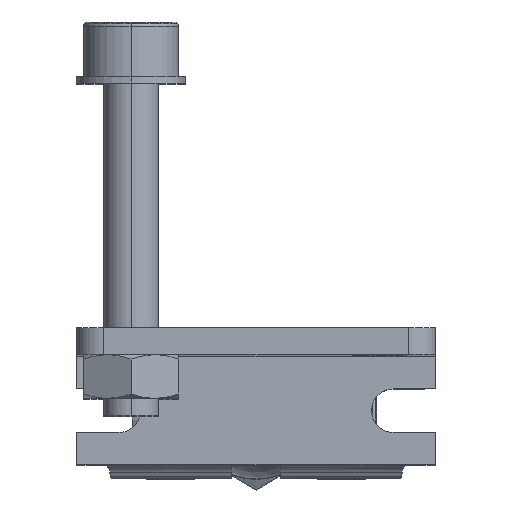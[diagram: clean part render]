
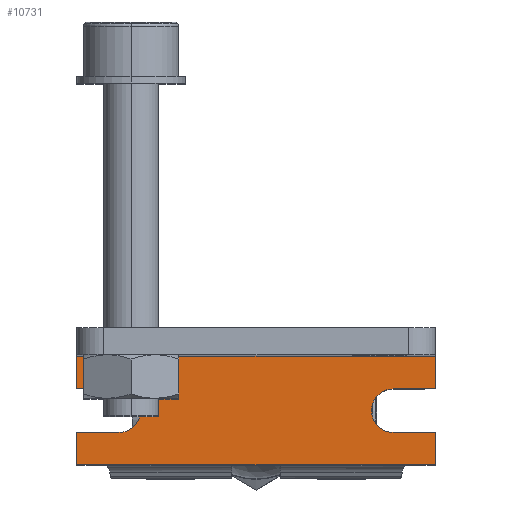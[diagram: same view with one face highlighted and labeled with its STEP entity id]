
A CAD part, top view. The second image highlights one B-rep face of the part: STEP entity #10731.
In plain terms, the highlighted planar face has unit normal (0, 0, 1) as drawn and (1, 0, 0) by its records, which use the part's own axes.
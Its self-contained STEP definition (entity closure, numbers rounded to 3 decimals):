
#4245=DIRECTION('',(0.,0.,-1.));
#4246=VECTOR('',#4245,26.4);
#4247=CARTESIAN_POINT('',(31.,4.,13.2));
#4248=LINE('',#4247,#4246);
#5699=DIRECTION('',(0.,0.,-1.));
#5700=VECTOR('',#5699,26.4);
#5701=CARTESIAN_POINT('',(31.,-4.,13.2));
#5702=LINE('',#5701,#5700);
#5706=DIRECTION('',(0.,-1.,0.));
#5707=VECTOR('',#5706,2.4);
#5708=CARTESIAN_POINT('',(31.,-1.6,13.2));
#5709=LINE('',#5708,#5707);
#5713=DIRECTION('',(0.,0.,1.));
#5714=VECTOR('',#5713,3.1);
#5715=CARTESIAN_POINT('',(31.,-1.6,10.1));
#5716=LINE('',#5715,#5714);
#5720=CARTESIAN_POINT('',(31.,0.,10.1));
#5721=DIRECTION('',(-1.,0.,0.));
#5722=DIRECTION('',(0.,1.,0.));
#5723=AXIS2_PLACEMENT_3D('',#5720,#5721,#5722);
#5728=DIRECTION('',(0.,0.,-1.));
#5729=VECTOR('',#5728,3.1);
#5730=CARTESIAN_POINT('',(31.,1.6,13.2));
#5731=LINE('',#5730,#5729);
#5735=DIRECTION('',(0.,-1.,0.));
#5736=VECTOR('',#5735,2.4);
#5737=CARTESIAN_POINT('',(31.,4.,13.2));
#5738=LINE('',#5737,#5736);
#5742=DIRECTION('',(0.,1.,0.));
#5743=VECTOR('',#5742,2.4);
#5744=CARTESIAN_POINT('',(31.,1.6,-13.2));
#5745=LINE('',#5744,#5743);
#5749=DIRECTION('',(0.,0.,-1.));
#5750=VECTOR('',#5749,3.1);
#5751=CARTESIAN_POINT('',(31.,1.6,-10.1));
#5752=LINE('',#5751,#5750);
#5756=CARTESIAN_POINT('',(31.,0.,-10.1));
#5757=DIRECTION('',(-1.,0.,0.));
#5758=DIRECTION('',(0.,-1.,0.));
#5759=AXIS2_PLACEMENT_3D('',#5756,#5757,#5758);
#5764=DIRECTION('',(0.,0.,1.));
#5765=VECTOR('',#5764,3.1);
#5766=CARTESIAN_POINT('',(31.,-1.6,-13.2));
#5767=LINE('',#5766,#5765);
#5771=DIRECTION('',(0.,1.,0.));
#5772=VECTOR('',#5771,2.4);
#5773=CARTESIAN_POINT('',(31.,-4.,-13.2));
#5774=LINE('',#5773,#5772);
#7340=CARTESIAN_POINT('',(31.,-4.,13.2));
#7341=CARTESIAN_POINT('',(31.,-4.,-13.2));
#7342=VERTEX_POINT('',#7340);
#7343=VERTEX_POINT('',#7341);
#7344=CARTESIAN_POINT('',(31.,-1.6,-13.2));
#7345=VERTEX_POINT('',#7344);
#7346=CARTESIAN_POINT('',(31.,-1.6,-10.1));
#7347=VERTEX_POINT('',#7346);
#7348=CARTESIAN_POINT('',(31.,1.6,-10.1));
#7349=VERTEX_POINT('',#7348);
#7350=CARTESIAN_POINT('',(31.,1.6,-13.2));
#7351=VERTEX_POINT('',#7350);
#7352=CARTESIAN_POINT('',(31.,4.,-13.2));
#7353=VERTEX_POINT('',#7352);
#7354=CARTESIAN_POINT('',(31.,4.,13.2));
#7355=VERTEX_POINT('',#7354);
#7356=CARTESIAN_POINT('',(31.,1.6,13.2));
#7357=VERTEX_POINT('',#7356);
#7358=CARTESIAN_POINT('',(31.,1.6,10.1));
#7359=VERTEX_POINT('',#7358);
#7360=CARTESIAN_POINT('',(31.,-1.6,10.1));
#7361=VERTEX_POINT('',#7360);
#7362=CARTESIAN_POINT('',(31.,-1.6,13.2));
#7363=VERTEX_POINT('',#7362);
#10708=CARTESIAN_POINT('',(31.,-5.,7.));
#10709=DIRECTION('',(-1.,0.,0.));
#10710=DIRECTION('',(0.,-1.,0.));
#10711=AXIS2_PLACEMENT_3D('',#10708,#10709,#10710);
#10712=PLANE('',#10711);
#10713=ORIENTED_EDGE('',*,*,#8241,.F.);
#10714=ORIENTED_EDGE('',*,*,#8228,.F.);
#10716=ORIENTED_EDGE('',*,*,#10715,.F.);
#10718=ORIENTED_EDGE('',*,*,#10717,.F.);
#10720=ORIENTED_EDGE('',*,*,#10719,.F.);
#10722=ORIENTED_EDGE('',*,*,#10721,.F.);
#10723=ORIENTED_EDGE('',*,*,#9361,.T.);
#10724=ORIENTED_EDGE('',*,*,#10645,.F.);
#10725=ORIENTED_EDGE('',*,*,#10658,.F.);
#10726=ORIENTED_EDGE('',*,*,#10671,.F.);
#10727=ORIENTED_EDGE('',*,*,#10685,.F.);
#10728=ORIENTED_EDGE('',*,*,#10697,.F.);
#10729=EDGE_LOOP('',(#10713,#10714,#10716,#10718,#10720,#10722,#10723,#10724,
#10725,#10726,#10727,#10728));
#10730=FACE_OUTER_BOUND('',#10729,.F.);
#5724=CIRCLE('',#5723,1.6);
#5760=CIRCLE('',#5759,1.6);
#8228=EDGE_CURVE('',#7363,#7342,#5709,.T.);
#8241=EDGE_CURVE('',#7342,#7343,#5702,.T.);
#9361=EDGE_CURVE('',#7355,#7353,#4248,.T.);
#10645=EDGE_CURVE('',#7351,#7353,#5745,.T.);
#10658=EDGE_CURVE('',#7349,#7351,#5752,.T.);
#10671=EDGE_CURVE('',#7347,#7349,#5760,.T.);
#10685=EDGE_CURVE('',#7345,#7347,#5767,.T.);
#10697=EDGE_CURVE('',#7343,#7345,#5774,.T.);
#10715=EDGE_CURVE('',#7361,#7363,#5716,.T.);
#10717=EDGE_CURVE('',#7359,#7361,#5724,.T.);
#10719=EDGE_CURVE('',#7357,#7359,#5731,.T.);
#10721=EDGE_CURVE('',#7355,#7357,#5738,.T.);
#10731=ADVANCED_FACE('',(#10730),#10712,.F.);
